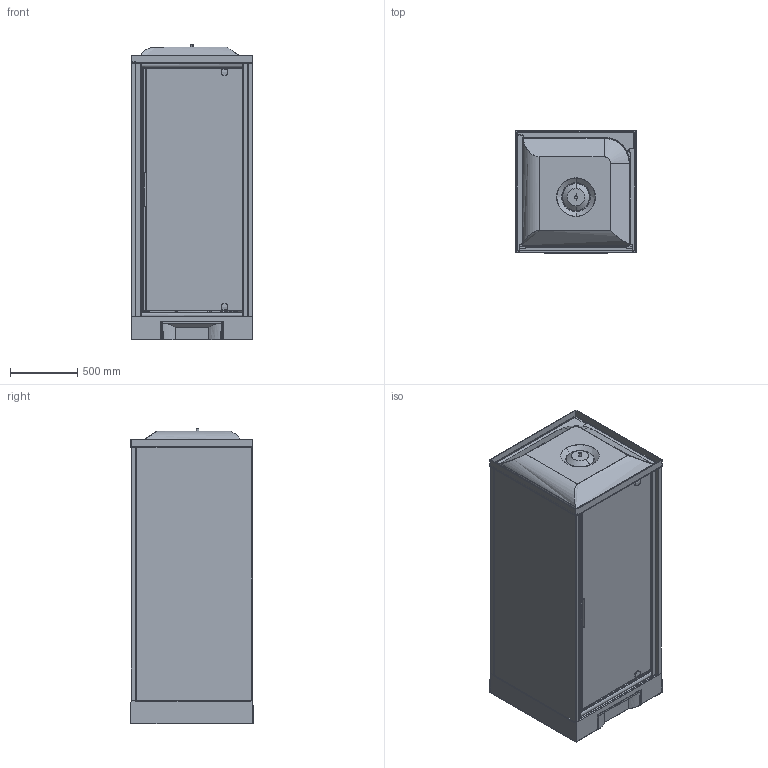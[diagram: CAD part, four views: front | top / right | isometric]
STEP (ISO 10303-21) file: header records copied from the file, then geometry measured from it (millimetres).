
FILE_DESCRIPTION(('STEP AP203'),'2;1');
FILE_NAME('NNH BI 90 T 19 F.stp','2015-09-04T14:58:26',(''),(''),'2014.1.117','THINKDESIGN','');
FILE_SCHEMA(('CONFIG_CONTROL_DESIGN'));
Bounding box: 904 x 907.51 x 2192.4 mm (x, y, z)
Volume: 259521068.7 mm3; surface area: 20775811.9 mm2
Topology: 38 solids, 38 shells, 787 faces, 1866 edges, 1169 vertices
Faces by surface type: bspline 449, plane 224, cylinder 114
Entity records: 108099 total; most frequent: CARTESIAN_POINT 92702, ORIENTED_EDGE 3688, DIRECTION 2089, EDGE_CURVE 1844, VERTEX_POINT 1165, EDGE_LOOP 819, FACE_OUTER_BOUND 785, ADVANCED_FACE 785
